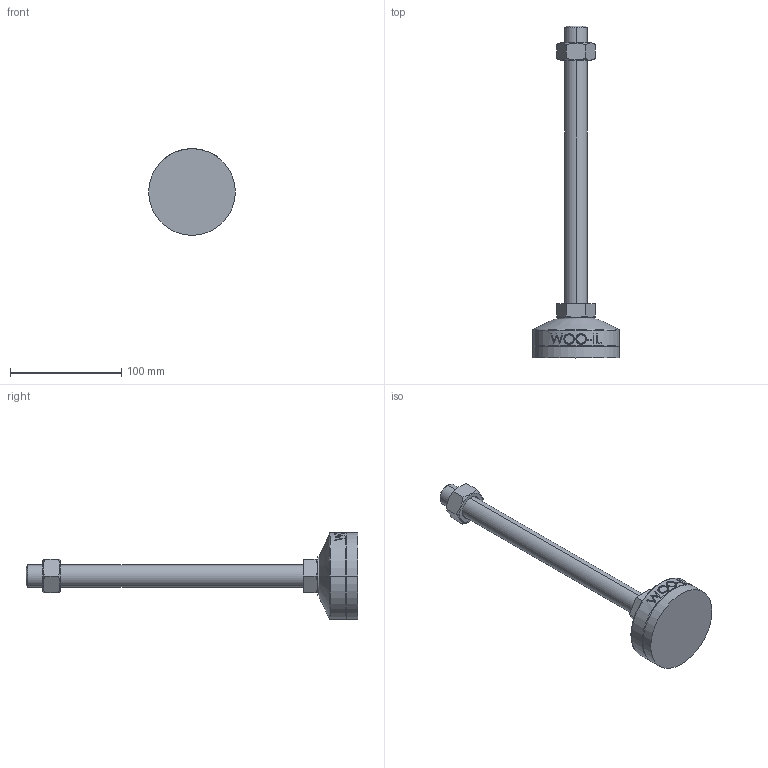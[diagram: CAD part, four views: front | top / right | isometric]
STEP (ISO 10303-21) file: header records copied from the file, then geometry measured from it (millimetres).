
FILE_DESCRIPTION (( 'STEP AP214' ), '1' );
FILE_NAME ('MFZR78-M20-250.step', '2021-03-29T06:58:52', ( '' ), ( '' ), 'SwSTEP 2.0', 'SolidWorks 2019', '' );
FILE_SCHEMA (( 'AUTOMOTIVE_DESIGN' ));
Length unit declared in the file: millimetre
Products named in the file (2): MFZR78-M20-250
Bounding box: 78 x 299 x 78 mm (x, y, z)
Volume: 244976.8 mm3; surface area: 38592.1 mm2
Topology: 3 solids, 3 shells, 102 faces, 235 edges, 150 vertices
Faces by surface type: plane 48, cylinder 18, bspline 16, cone 14, torus 6
Entity records: 4492 total; most frequent: CARTESIAN_POINT 2237, ORIENTED_EDGE 470, DIRECTION 415, EDGE_CURVE 235, AXIS2_PLACEMENT_3D 158, VERTEX_POINT 150, EDGE_LOOP 115, ADVANCED_FACE 102
